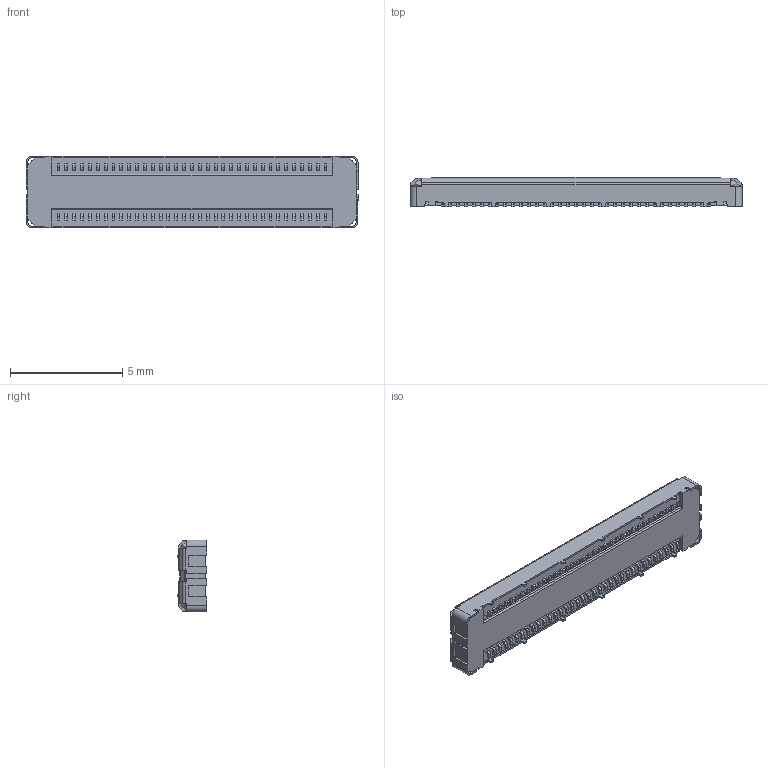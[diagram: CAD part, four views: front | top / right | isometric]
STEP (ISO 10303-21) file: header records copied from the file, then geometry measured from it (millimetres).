
FILE_DESCRIPTION (( 'STEP AP203' ), '1' );
FILE_NAME ('21004-070EC NOVASTACK 35-HDH RECEPTACLE ASSEMBLY STEP R5.STEP', '2024-05-16T06:15:40', ( '' ), ( '' ), 'SwSTEP 2.0', 'SolidWorks 2023', '' );
FILE_SCHEMA (( 'CONFIG_CONTROL_DESIGN' ));
Length unit declared in the file: millimetre
Products named in the file (1): 21004-070EC NOVASTACK 35-HDH RECEPTACLE ASSEMBLY STEP R5
Bounding box: 14.8 x 1.3 x 3.2 mm (x, y, z)
Volume: 42.8 mm3; surface area: 195.5 mm2
Topology: 1 solids, 1 shells, 1037 faces, 2856 edges, 1880 vertices
Faces by surface type: plane 731, cylinder 298, sphere 4, bspline 4
Entity records: 32903 total; most frequent: CARTESIAN_POINT 5958, ORIENTED_EDGE 5704, DIRECTION 5464, EDGE_CURVE 2852, LINE 2244, VECTOR 2244, VERTEX_POINT 1880, AXIS2_PLACEMENT_3D 1610
